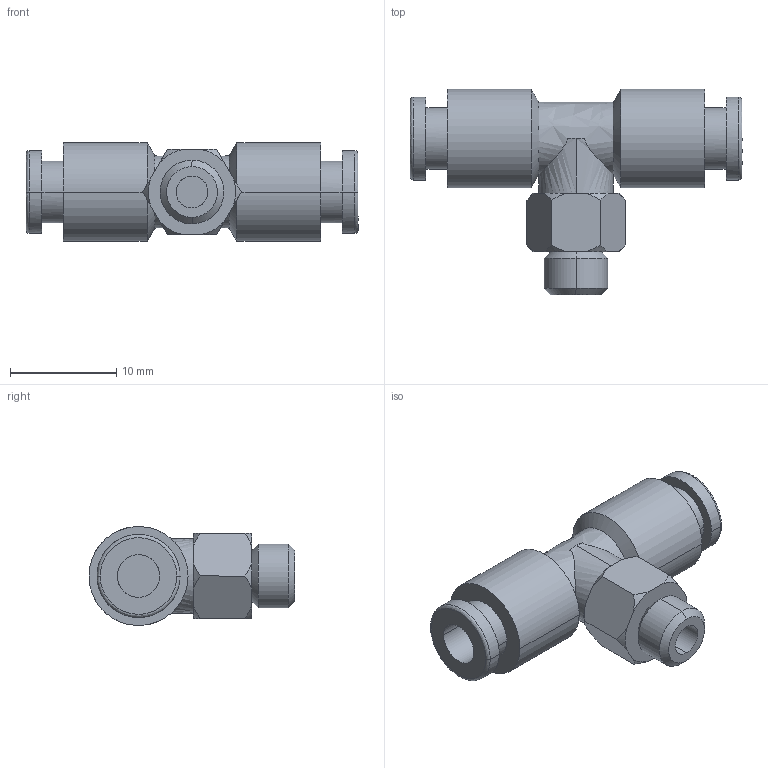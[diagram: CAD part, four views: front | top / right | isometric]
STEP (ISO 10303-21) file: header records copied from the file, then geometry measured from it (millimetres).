
FILE_DESCRIPTION (( 'STEP AP214' ), '1' );
FILE_NAME ('KQ2T04-M6.STEP', '2023-03-08T10:11:05', ( 'Windows User' ), ( 'P R C' ), 'SwSTEP 2.0', 'SolidWorks 2019', '' );
FILE_SCHEMA (( 'AUTOMOTIVE_DESIGN' ));
Length unit declared in the file: millimetre
Products named in the file (1): KQ2T04-M6
Bounding box: 31.2 x 19.35 x 9.27 mm (x, y, z)
Volume: 1746.6 mm3; surface area: 1792.9 mm2
Topology: 1 solids, 1 shells, 68 faces, 153 edges, 96 vertices
Faces by surface type: bspline 48, plane 20
Entity records: 2653 total; most frequent: CARTESIAN_POINT 1632, ORIENTED_EDGE 306, EDGE_CURVE 153, B_SPLINE_CURVE_WITH_KNOTS 107, VERTEX_POINT 96, EDGE_LOOP 77, ADVANCED_FACE 68, FACE_OUTER_BOUND 68
